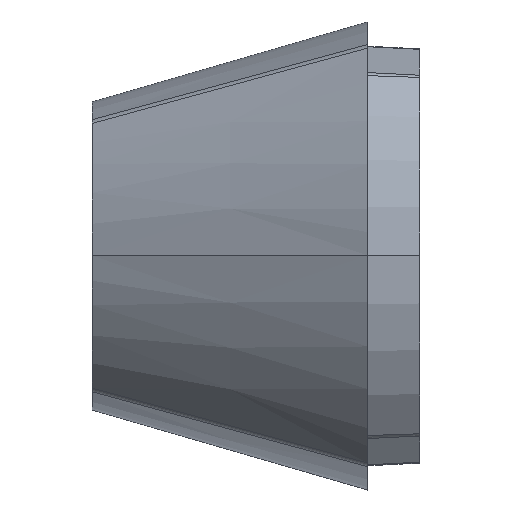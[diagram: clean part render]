
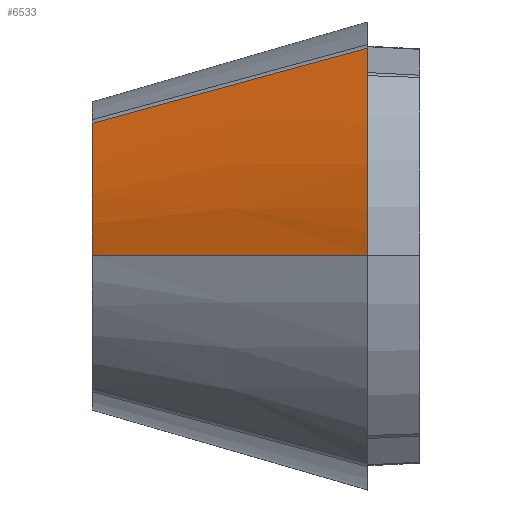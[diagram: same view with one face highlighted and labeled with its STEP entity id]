
A CAD part, top view. The second image highlights one B-rep face of the part: STEP entity #6533.
In plain terms, the highlighted free-form (B-spline) face has degree [3, 3] with [5, 7] control points.
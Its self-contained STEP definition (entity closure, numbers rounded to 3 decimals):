
#1564=CARTESIAN_POINT('',(-68.34,115.,60.803));
#1572=CARTESIAN_POINT('',(-68.34,152.896,44.485));
#1573=CARTESIAN_POINT('',(-68.34,150.452,47.068));
#1574=CARTESIAN_POINT('',(-68.34,145.093,51.69));
#1575=CARTESIAN_POINT('',(-68.34,135.775,56.889));
#1576=CARTESIAN_POINT('',(-68.34,125.595,60.086));
#1577=CARTESIAN_POINT('',(-68.34,118.556,60.803));
#1578=CARTESIAN_POINT('',(-68.34,115.,60.803));
#1721=CARTESIAN_POINT('',(-118.59,115.,36.18));
#1722=CARTESIAN_POINT('',(-118.591,117.247,36.18));
#1723=CARTESIAN_POINT('',(-118.589,121.679,35.755));
#1724=CARTESIAN_POINT('',(-118.591,128.134,33.841));
#1725=CARTESIAN_POINT('',(-118.589,134.1,30.719));
#1726=CARTESIAN_POINT('',(-118.591,137.576,27.937));
#1727=CARTESIAN_POINT('',(-118.59,139.189,26.373));
#1735=CARTESIAN_POINT('',(-118.59,115.,36.18));
#1949=CARTESIAN_POINT('',(-68.34,152.896,44.485));
#1954=CARTESIAN_POINT('',(-68.34,152.896,44.485));
#1955=CARTESIAN_POINT('',(-76.715,150.612,41.466));
#1956=CARTESIAN_POINT('',(-93.466,146.044,35.43));
#1957=CARTESIAN_POINT('',(-110.215,141.474,29.393));
#1958=CARTESIAN_POINT('',(-118.59,139.189,26.373));
#1960=DIRECTION('',(0.898,0.,0.44));
#1961=VECTOR('',#1960,55.958);
#1962=CARTESIAN_POINT('',(-118.59,115.,36.18));
#1963=LINE('',#1962,#1961);
#5333=VERTEX_POINT('',#1949);
#5489=VERTEX_POINT('',#1735);
#5495=VERTEX_POINT('',#1564);
#5512=VERTEX_POINT('',#1727);
#6490=CARTESIAN_POINT('',(-67.837,153.323,44.356));
#6491=CARTESIAN_POINT('',(-67.838,150.793,47.075));
#6492=CARTESIAN_POINT('',(-67.838,145.327,51.831));
#6493=CARTESIAN_POINT('',(-67.838,135.851,57.119));
#6494=CARTESIAN_POINT('',(-67.838,125.499,60.372));
#6495=CARTESIAN_POINT('',(-67.837,118.289,61.077));
#6496=CARTESIAN_POINT('',(-67.838,114.575,61.047));
#6497=CARTESIAN_POINT('',(-76.38,150.978,41.298));
#6498=CARTESIAN_POINT('',(-76.379,148.591,43.832));
#6499=CARTESIAN_POINT('',(-76.378,143.448,48.265));
#6500=CARTESIAN_POINT('',(-76.378,134.549,53.197));
#6501=CARTESIAN_POINT('',(-76.38,124.839,56.232));
#6502=CARTESIAN_POINT('',(-76.38,118.083,56.889));
#6503=CARTESIAN_POINT('',(-76.38,114.601,56.862));
#6504=CARTESIAN_POINT('',(-93.466,146.285,35.182));
#6505=CARTESIAN_POINT('',(-93.463,144.187,37.35));
#6506=CARTESIAN_POINT('',(-93.461,139.691,41.138));
#6507=CARTESIAN_POINT('',(-93.462,131.947,45.357));
#6508=CARTESIAN_POINT('',(-93.465,123.522,47.952));
#6509=CARTESIAN_POINT('',(-93.465,117.672,48.514));
#6510=CARTESIAN_POINT('',(-93.465,114.654,48.49));
#6511=CARTESIAN_POINT('',(-110.55,141.59,29.066));
#6512=CARTESIAN_POINT('',(-110.55,139.784,30.875));
#6513=CARTESIAN_POINT('',(-110.549,135.94,34.023));
#6514=CARTESIAN_POINT('',(-110.55,129.352,37.524));
#6515=CARTESIAN_POINT('',(-110.551,122.21,39.674));
#6516=CARTESIAN_POINT('',(-110.551,117.263,40.138));
#6517=CARTESIAN_POINT('',(-110.55,114.707,40.119));
#6518=CARTESIAN_POINT('',(-119.092,139.243,26.006));
#6519=CARTESIAN_POINT('',(-119.093,137.585,27.636));
#6520=CARTESIAN_POINT('',(-119.094,134.068,30.468));
#6521=CARTESIAN_POINT('',(-119.095,128.058,33.61));
#6522=CARTESIAN_POINT('',(-119.094,121.555,35.536));
#6523=CARTESIAN_POINT('',(-119.093,117.059,35.95));
#6524=CARTESIAN_POINT('',(-119.092,114.734,35.933));
#6525=B_SPLINE_SURFACE_WITH_KNOTS('',3,3,((#6490,#6491,#6492,#6493,#6494,#6495,
#6496),(#6497,#6498,#6499,#6500,#6501,#6502,#6503),(#6504,#6505,#6506,#6507,
#6508,#6509,#6510),(#6511,#6512,#6513,#6514,#6515,#6516,#6517),(#6518,#6519,
#6520,#6521,#6522,#6523,#6524)),.UNSPECIFIED.,.F.,.F.,.F.,(4,1,4),(4,1,1,1,4),(
-0.01,0.5,1.01),(-0.01,0.25,0.5,
0.75,1.01),.UNSPECIFIED.);
#6526=ORIENTED_EDGE('',*,*,#6201,.T.);
#6527=ORIENTED_EDGE('',*,*,#6485,.F.);
#6528=ORIENTED_EDGE('',*,*,#6088,.T.);
#6530=ORIENTED_EDGE('',*,*,#6529,.F.);
#6531=EDGE_LOOP('',(#6526,#6527,#6528,#6530));
#6532=FACE_OUTER_BOUND('',#6531,.F.);
#6533=ADVANCED_FACE('',(#6532),#6525,.T.);
#1579=B_SPLINE_CURVE_WITH_KNOTS('',3,(#1572,#1573,#1574,#1575,#1576,#1577,
#1578),.UNSPECIFIED.,.F.,.F.,(4,1,1,1,4),(0.,0.25,0.5,0.75,1.),
.UNSPECIFIED.);
#1728=B_SPLINE_CURVE_WITH_KNOTS('',3,(#1721,#1722,#1723,#1724,#1725,#1726,
#1727),.UNSPECIFIED.,.F.,.F.,(4,1,1,1,4),(0.,0.25,0.5,0.75,1.),
.UNSPECIFIED.);
#1959=B_SPLINE_CURVE_WITH_KNOTS('',3,(#1954,#1955,#1956,#1957,#1958),
.UNSPECIFIED.,.F.,.F.,(4,1,4),(0.,0.5,1.),.UNSPECIFIED.);
#6088=EDGE_CURVE('',#5333,#5495,#1579,.T.);
#6201=EDGE_CURVE('',#5489,#5512,#1728,.T.);
#6485=EDGE_CURVE('',#5333,#5512,#1959,.T.);
#6529=EDGE_CURVE('',#5489,#5495,#1963,.T.);
